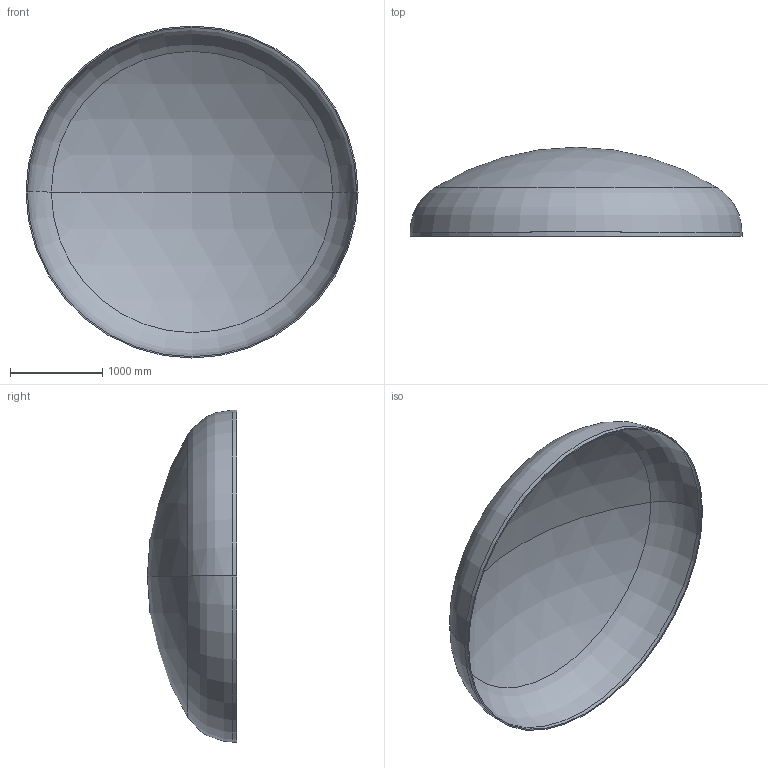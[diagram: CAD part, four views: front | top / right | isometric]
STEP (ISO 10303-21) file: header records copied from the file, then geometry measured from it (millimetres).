
FILE_DESCRIPTION (( 'STEP AP203' ), '1' );
FILE_NAME ('DIN 28013 Korbbogenform_-_Boden DIN 28013 - 3600 x 45 - I - s=14.step', '2016-07-01T20:07:09', ( '' ), ( '' ), 'SwSTEP 2.0', 'SolidWorks 2013', '' );
FILE_SCHEMA (( 'CONFIG_CONTROL_DESIGN' ));
Length unit declared in the file: millimetre
Products named in the file (1): DIN 28013 Korbbogenform_-_Boden DIN 28013 - 3600 x 45 - I - s=14
Bounding box: 3600 x 966.62 x 3600 mm (x, y, z)
Volume: 203501234.2 mm3; surface area: 29229724.2 mm2
Topology: 1 solids, 1 shells, 13 faces, 24 edges, 14 vertices
Faces by surface type: torus 4, cylinder 4, sphere 4, plane 1
Entity records: 407 total; most frequent: DIRECTION 72, CARTESIAN_POINT 52, ORIENTED_EDGE 48, AXIS2_PLACEMENT_3D 34, EDGE_CURVE 24, CIRCLE 20, EDGE_LOOP 14, VERTEX_POINT 14
